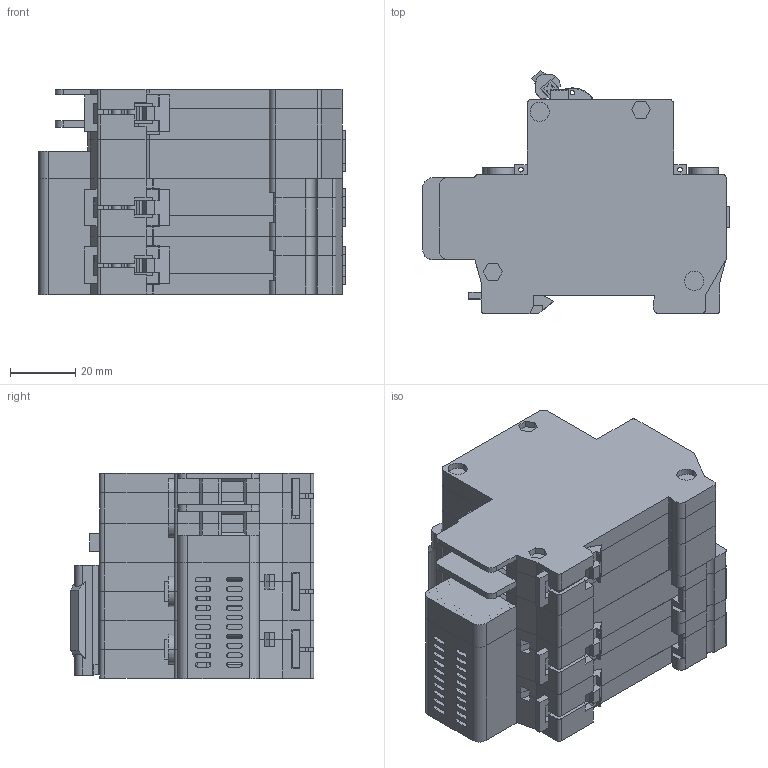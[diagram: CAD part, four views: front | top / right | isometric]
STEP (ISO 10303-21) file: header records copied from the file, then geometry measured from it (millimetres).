
FILE_DESCRIPTION (( 'STEP AP214' ), '1' );
FILE_NAME ('ﾀﾄ12 蒡 32ﾀ.STEP', '2022-11-18T10:23:59', ( '' ), ( '' ), 'SwSTEP 2.0', 'SolidWorks 2018', '' );
FILE_SCHEMA (( 'AUTOMOTIVE_DESIGN' ));
Length unit declared in the file: millimetre
Products named in the file (22): ﾀﾄ12 蒡 32ﾀ; 鎔艜 (斂12) 04.2022; ч蜱齁罻 倢昅; Çàùåëêà (ÂÀ47-29 Changan) 04.2022; Ðó÷êà (ÂÀ47-29 Changan) 04.2022; Êîëîäêà (ÂÀ47-29) 14.02.2022; Áîêîâèíà ïðàâàÿ (ÂÀ47-29 Changan) 04.2022; Ñåðåäèíà ïåðåä êíîïêîé (ÀÄ12-14 Changan) (9.09.2022); Áîêîâèíà ëåâàÿ (ÂÀ47-29 Changan) 04.2022; 扱闀罻 蠈嚦 斂12 OFA 04.2022; Ëåâàÿ áîêîâèíà  (ÀÄ12-14 Changan) 04.2022; Êíîïêà âîçâðàò; Êðûøêà ïîä ïðîâîäà ÀÄ12-14 Changan 04.2022_2 ¯®«îá ; Ñêîáà (ÂÀ47-29 OFA) 04.2022_2 ¯®«îá ; 鎔艜 (臍47-29) 14.02.2022; 青觌屣赅 (吕47-29 OFA) 04.2022_2 釥; 青汶篪赅 (吕47-29) 14.02.2022; ÂÀ47-29 1Õ Changan 04.2022_1 ¤«ï 2; Áîêîâèíà ïðàâàÿ (ÀÄ12-14 Changan) 09.2022_¤® 32€; ﾂﾀ47-29 1ﾕ Changan 04.2022_尚皚･､ｭｨｩ ｯｮｫ髜; ﾂﾀ47-29 2ﾕ Changan 04.2022; ﾂ鏆鮏 (ﾂﾀ47-29 OFA) 14.02.2022
Assembly tree (43 placements, depth 4):
  ﾀﾄ12 蒡 32ﾀ
    Ëåâàÿ áîêîâèíà  (ÀÄ12-14 Changan) 04.2022
    Ñåðåäèíà ïåðåä êíîïêîé (ÀÄ12-14 Changan) (9.09.2022)
    Êðûøêà ïîä ïðîâîäà ÀÄ12-14 Changan 04.2022_2 ¯®«îá 
    ﾂﾀ47-29 2ﾕ Changan 04.2022
      ÂÀ47-29 1Õ Changan 04.2022_1 ¤«ï 2
        Áîêîâèíà ïðàâàÿ (ÂÀ47-29 Changan) 04.2022
        Áîêîâèíà ëåâàÿ (ÂÀ47-29 Changan) 04.2022
        Çàùåëêà (ÂÀ47-29 Changan) 04.2022
        Ðó÷êà (ÂÀ47-29 Changan) 04.2022
        青觌屣赅 (吕47-29 OFA) 04.2022_2 釥  x4
        青汶篪赅 (吕47-29) 14.02.2022  x2
        鎔艜 (臍47-29) 14.02.2022  x2
        ﾂ鏆鮏 (ﾂﾀ47-29 OFA) 14.02.2022  x2
        Êîëîäêà (ÂÀ47-29) 14.02.2022  x2
      ﾂﾀ47-29 1ﾕ Changan 04.2022_尚皚･､ｭｨｩ ｯｮｫ髜
        Áîêîâèíà ïðàâàÿ (ÂÀ47-29 Changan) 04.2022
        Áîêîâèíà ëåâàÿ (ÂÀ47-29 Changan) 04.2022
        Çàùåëêà (ÂÀ47-29 Changan) 04.2022
        Ðó÷êà (ÂÀ47-29 Changan) 04.2022
        青汶篪赅 (吕47-29) 14.02.2022  x2
        鎔艜 (臍47-29) 14.02.2022  x2
        ﾂ鏆鮏 (ﾂﾀ47-29 OFA) 14.02.2022  x2
        Êîëîäêà (ÂÀ47-29) 14.02.2022  x2
      Ñêîáà (ÂÀ47-29 OFA) 04.2022_2 ¯®«îá   x2
    Áîêîâèíà ïðàâàÿ (ÀÄ12-14 Changan) 09.2022_¤® 32€
    Çàùåëêà (ÂÀ47-29 Changan) 04.2022
    扱闀罻 蠈嚦 斂12 OFA 04.2022
    Êíîïêà âîçâðàò
    ч蜱齁罻 倢昅
    鎔艜 (斂12) 04.2022  x2
Bounding box: 94 x 74.7 x 63 mm (x, y, z)
Volume: 237530.5 mm3; surface area: 115146.6 mm2
Topology: 40 solids, 40 shells, 2450 faces, 6665 edges, 4326 vertices
Faces by surface type: plane 1808, cylinder 566, torus 76
Entity records: 39347 total; most frequent: CARTESIAN_POINT 6984, ORIENTED_EDGE 6664, DIRECTION 6405, EDGE_CURVE 3332, LINE 2625, VECTOR 2625, VERTEX_POINT 2181, AXIS2_PLACEMENT_3D 1890
